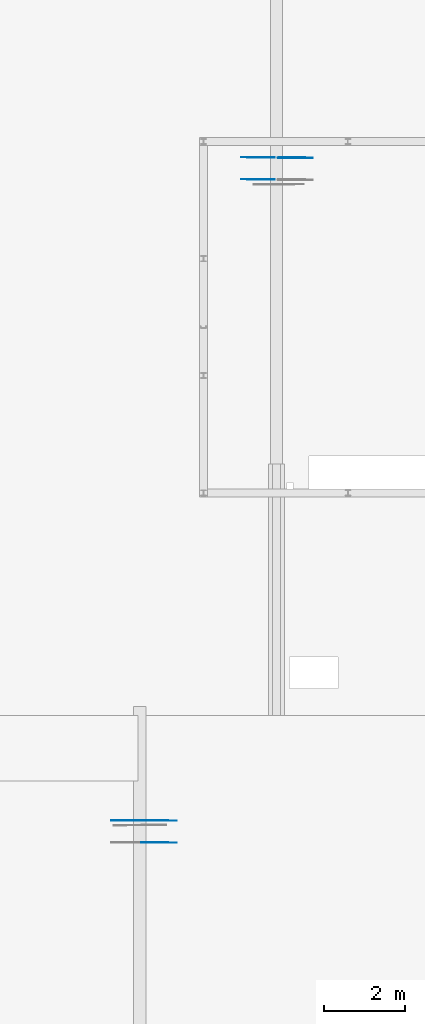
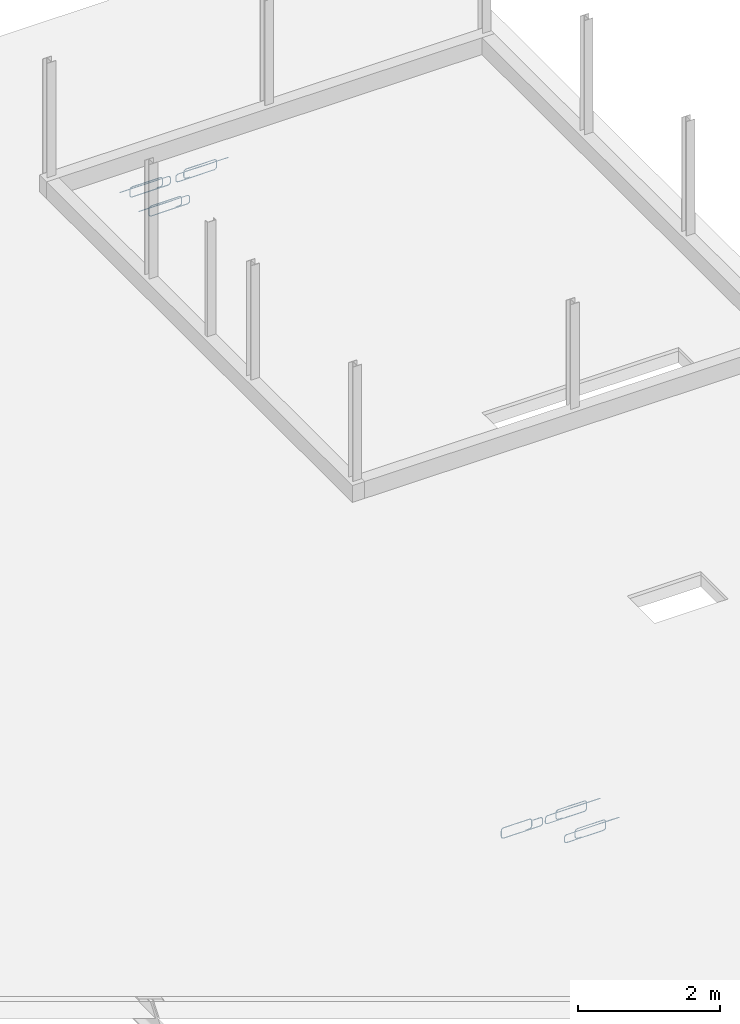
# One storey, part 8 of 9: 6 reinforcing bars.
"""IFC2X3 building model written with IfcOpenShell, lengths in millimetres."""

from ifc_helpers import new_model, entity, si_unit, converted_unit, derived_unit, direction, frame, origin, place, context, subcontext, project, spatial, element, save


model = new_model("IFC2X3")

# Units and contexts
model_context = context("Model", 3, precision=0.01, world=origin(), true_north=direction((6.12303176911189e-17, 1.0)))
body_context = subcontext(model_context, "Body", "Model", "MODEL_VIEW")
ifc_project = project(units=[si_unit("LENGTHUNIT", "METRE", prefix="MILLI"), si_unit("AREAUNIT", "SQUARE_METRE"), si_unit("VOLUMEUNIT", "CUBIC_METRE"), converted_unit("PLANEANGLEUNIT", "DEGREE", entity("IfcRatioMeasure", 0.0174532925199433), si_unit("PLANEANGLEUNIT", "RADIAN"), dimensions=[0, 0, 0, 0, 0, 0, 0]), si_unit("MASSUNIT", "GRAM", prefix="KILO"), derived_unit("MASSDENSITYUNIT", [(si_unit("MASSUNIT", "GRAM", prefix="KILO"), 1), (si_unit("LENGTHUNIT", "METRE"), -3)]), derived_unit("MOMENTOFINERTIAUNIT", [(si_unit("LENGTHUNIT", "METRE"), 4)]), si_unit("TIMEUNIT", "SECOND"), si_unit("FREQUENCYUNIT", "HERTZ"), si_unit("THERMODYNAMICTEMPERATUREUNIT", "DEGREE_CELSIUS"), derived_unit("THERMALTRANSMITTANCEUNIT", [(si_unit("MASSUNIT", "GRAM", prefix="KILO"), 1), (si_unit("THERMODYNAMICTEMPERATUREUNIT", "KELVIN"), -1), (si_unit("TIMEUNIT", "SECOND"), -3)]), derived_unit("VOLUMETRICFLOWRATEUNIT", [(si_unit("LENGTHUNIT", "METRE"), 3), (si_unit("TIMEUNIT", "SECOND"), -1)]), si_unit("ELECTRICCURRENTUNIT", "AMPERE"), si_unit("ELECTRICVOLTAGEUNIT", "VOLT"), si_unit("POWERUNIT", "WATT"), si_unit("FORCEUNIT", "NEWTON", prefix="KILO"), si_unit("ILLUMINANCEUNIT", "LUX"), si_unit("LUMINOUSFLUXUNIT", "LUMEN"), si_unit("LUMINOUSINTENSITYUNIT", "CANDELA"), derived_unit("USERDEFINED", [(si_unit("MASSUNIT", "GRAM", prefix="KILO"), -1), (si_unit("LENGTHUNIT", "METRE"), -2), (si_unit("TIMEUNIT", "SECOND"), 3), (si_unit("LUMINOUSFLUXUNIT", "LUMEN"), 1)]), derived_unit("LINEARVELOCITYUNIT", [(si_unit("LENGTHUNIT", "METRE"), 1), (si_unit("TIMEUNIT", "SECOND"), -1)]), si_unit("PRESSUREUNIT", "PASCAL"), derived_unit("USERDEFINED", [(si_unit("LENGTHUNIT", "METRE"), -2), (si_unit("MASSUNIT", "GRAM", prefix="KILO"), 1), (si_unit("TIMEUNIT", "SECOND"), -2)]), derived_unit("LINEARFORCEUNIT", [(si_unit("MASSUNIT", "GRAM", prefix="KILO"), 1), (si_unit("LENGTHUNIT", "METRE"), 1), (si_unit("TIMEUNIT", "SECOND"), -2), (si_unit("LENGTHUNIT", "METRE"), -1)]), derived_unit("PLANARFORCEUNIT", [(si_unit("MASSUNIT", "GRAM", prefix="KILO"), 1), (si_unit("LENGTHUNIT", "METRE"), 1), (si_unit("TIMEUNIT", "SECOND"), -2), (si_unit("LENGTHUNIT", "METRE"), -2)])], contexts=[model_context])

# Site, building, storey
site_placement = place(None, origin())
site = spatial("IfcSite", under=ifc_project, at=site_placement, Name="Default", CompositionType="ELEMENT")
building_placement = place(site_placement, origin())
building = spatial("IfcBuilding", under=site, at=building_placement, CompositionType="ELEMENT")
storey_placement = place(building_placement, frame((0.0, 0.0, 7000.0)))
storey = spatial("IfcBuildingStorey", under=building, at=storey_placement, Name="02 tweede verdieping", CompositionType="ELEMENT", Elevation=7000.00000000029)

# Reinforcing bars
reinforcing_bar_1_placement = place(storey_placement, origin())
ifc_direction_1 = entity("IfcDirection", [0.0, 1.0, 0.0])
ifc_direction_2 = entity("IfcDirection", [-1.0, 0.0, 0.0])
element("IfcReinforcingBar", 1, at=reinforcing_bar_1_placement, inside=storey, Name="Rebar Bar:SR_ø8 : Shape Rebar Shape 5: 1", ObjectType="Rebar Bar:SR_ø8", BarLength=2502.40730267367, BarRole="NOTDEFINED", CrossSectionArea=5.02654824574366e-05, NominalDiameter=8.0, context=body_context, shape_type="AdvancedSweptSolid", body=[
    entity("IfcSweptDiskSolid", entity("IfcCompositeCurve", [entity("IfcCompositeCurveSegment", "CONTINUOUS", True, entity("IfcPolyline", [entity("IfcCartesianPoint", [29237.7670532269, 31408.4625273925, 898.171324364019]), entity("IfcCartesianPoint", [29185.7670532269, 31408.4625273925, 898.171324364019])])), entity("IfcCompositeCurveSegment", "CONTINUOUS", True, entity("IfcTrimmedCurve", entity("IfcCircle", entity("IfcAxis2Placement3D", entity("IfcCartesianPoint", [29185.7670532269, 31408.4625273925, 942.171324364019]), ifc_direction_1, ifc_direction_2), 44.0), [entity("IfcParameterValue", 270.0)], [entity("IfcParameterValue", 360.0)], True, "PARAMETER")), entity("IfcCompositeCurveSegment", "CONTINUOUS", True, entity("IfcPolyline", [entity("IfcCartesianPoint", [29141.7670532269, 31408.4625273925, 942.171324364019]), entity("IfcCartesianPoint", [29141.7670532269, 31408.4625273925, 1013.25780031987])])), entity("IfcCompositeCurveSegment", "CONTINUOUS", True, entity("IfcTrimmedCurve", entity("IfcCircle", entity("IfcAxis2Placement3D", entity("IfcCartesianPoint", [29185.7670532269, 31408.4625273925, 1013.25780031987]), ifc_direction_1, entity("IfcDirection", [0.0, 0.0, 1.0])), 44.0), [entity("IfcParameterValue", 270.0)], [entity("IfcParameterValue", 360.0)], True, "PARAMETER")), entity("IfcCompositeCurveSegment", "CONTINUOUS", True, entity("IfcPolyline", [entity("IfcCartesianPoint", [29185.7670532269, 31408.4625273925, 1057.25780031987]), entity("IfcCartesianPoint", [29631.1743982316, 31408.4625273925, 1057.25780031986])])), entity("IfcCompositeCurveSegment", "CONTINUOUS", True, entity("IfcTrimmedCurve", entity("IfcCircle", entity("IfcAxis2Placement3D", entity("IfcCartesianPoint", [29631.1743982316, 31408.4625273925, 1013.25780031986]), ifc_direction_1, entity("IfcDirection", [1.0, 0.0, 0.0])), 44.0), [entity("IfcParameterValue", 270.0)], [entity("IfcParameterValue", 360.0)], True, "PARAMETER")), entity("IfcCompositeCurveSegment", "CONTINUOUS", True, entity("IfcPolyline", [entity("IfcCartesianPoint", [29675.1743982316, 31408.4625273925, 1013.25780031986]), entity("IfcCartesianPoint", [29675.1743982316, 31408.4625273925, 928.040008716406])])), entity("IfcCompositeCurveSegment", "CONTINUOUS", True, entity("IfcTrimmedCurve", entity("IfcCircle", entity("IfcAxis2Placement3D", entity("IfcCartesianPoint", [29631.1743982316, 31408.4625273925, 928.040008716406]), ifc_direction_1, entity("IfcDirection", [0.0, 0.0, -1.0])), 44.0), [entity("IfcParameterValue", 270.0)], [entity("IfcParameterValue", 360.0)], True, "PARAMETER")), entity("IfcCompositeCurveSegment", "CONTINUOUS", True, entity("IfcPolyline", [entity("IfcCartesianPoint", [29631.1743982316, 31408.4625273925, 884.040008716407]), entity("IfcCartesianPoint", [29054.7101783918, 31408.4625273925, 884.040008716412])])), entity("IfcCompositeCurveSegment", "CONTINUOUS", True, entity("IfcTrimmedCurve", entity("IfcCircle", entity("IfcAxis2Placement3D", entity("IfcCartesianPoint", [29054.7101783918, 31405.9382913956, 927.967542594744]), entity("IfcDirection", [0.0, 0.998353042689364, 0.0573689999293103]), ifc_direction_2), 44.0), [entity("IfcParameterValue", 270.0)], [entity("IfcParameterValue", 360.0)], True, "PARAMETER")), entity("IfcCompositeCurveSegment", "CONTINUOUS", True, entity("IfcPolyline", [entity("IfcCartesianPoint", [29010.7101783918, 31405.9382913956, 927.967542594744]), entity("IfcCartesianPoint", [29010.7101783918, 31402.9867633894, 979.330943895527])])), entity("IfcCompositeCurveSegment", "CONTINUOUS", True, entity("IfcTrimmedCurve", entity("IfcCircle", entity("IfcAxis2Placement3D", entity("IfcCartesianPoint", [29054.7101783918, 31402.9867633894, 979.330943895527]), entity("IfcDirection", [0.0, 0.998353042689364, 0.0573689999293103]), entity("IfcDirection", [0.0, -0.0573689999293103, 0.998353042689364])), 44.0), [entity("IfcParameterValue", 270.0)], [entity("IfcParameterValue", 360.0)], True, "PARAMETER")), entity("IfcCompositeCurveSegment", "CONTINUOUS", True, entity("IfcPolyline", [entity("IfcCartesianPoint", [29054.7101783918, 31400.4625273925, 1023.25847777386]), entity("IfcCartesianPoint", [29861.0329493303, 31400.4625273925, 1023.25847777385])]))], False), 4.0, None, 0.0, 547.0),
])
reinforcing_bar_2_placement = place(storey_placement, origin())
ifc_direction_3 = entity("IfcDirection", [0.0, -1.0, 0.0])
ifc_direction_4 = entity("IfcDirection", [1.0, 0.0, 0.0])
element("IfcReinforcingBar", 2, at=reinforcing_bar_2_placement, inside=storey, Name="Rebar Bar:SR_ø8 : Shape Rebar Shape 5: 1", ObjectType="Rebar Bar:SR_ø8", BarLength=2472.4231414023, BarRole="NOTDEFINED", CrossSectionArea=5.02654824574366e-05, NominalDiameter=8.0, context=body_context, shape_type="AdvancedSweptSolid", body=[
    entity("IfcSweptDiskSolid", entity("IfcCompositeCurve", [entity("IfcCompositeCurveSegment", "CONTINUOUS", True, entity("IfcPolyline", [entity("IfcCartesianPoint", [28701.1028997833, 31408.4625273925, 898.171324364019]), entity("IfcCartesianPoint", [28753.1028997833, 31408.4625273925, 898.171324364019])])), entity("IfcCompositeCurveSegment", "CONTINUOUS", True, entity("IfcTrimmedCurve", entity("IfcCircle", entity("IfcAxis2Placement3D", entity("IfcCartesianPoint", [28753.1028997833, 31408.4625273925, 942.171324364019]), ifc_direction_3, ifc_direction_4), 44.0), [entity("IfcParameterValue", 270.0)], [entity("IfcParameterValue", 360.0)], True, "PARAMETER")), entity("IfcCompositeCurveSegment", "CONTINUOUS", True, entity("IfcPolyline", [entity("IfcCartesianPoint", [28797.1028997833, 31408.4625273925, 942.171324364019]), entity("IfcCartesianPoint", [28797.1028997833, 31408.4625273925, 1013.25780031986])])), entity("IfcCompositeCurveSegment", "CONTINUOUS", True, entity("IfcTrimmedCurve", entity("IfcCircle", entity("IfcAxis2Placement3D", entity("IfcCartesianPoint", [28753.1028997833, 31408.4625273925, 1013.25780031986]), ifc_direction_3, entity("IfcDirection", [0.0, 0.0, 1.0])), 44.0), [entity("IfcParameterValue", 270.0)], [entity("IfcParameterValue", 360.0)], True, "PARAMETER")), entity("IfcCompositeCurveSegment", "CONTINUOUS", True, entity("IfcPolyline", [entity("IfcCartesianPoint", [28753.1028997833, 31408.4625273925, 1057.25780031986]), entity("IfcCartesianPoint", [28307.6955547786, 31408.4625273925, 1057.25780031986])])), entity("IfcCompositeCurveSegment", "CONTINUOUS", True, entity("IfcTrimmedCurve", entity("IfcCircle", entity("IfcAxis2Placement3D", entity("IfcCartesianPoint", [28307.6955547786, 31408.4625273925, 1013.25780031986]), ifc_direction_3, entity("IfcDirection", [-1.0, 0.0, 0.0])), 44.0), [entity("IfcParameterValue", 270.0)], [entity("IfcParameterValue", 360.0)], True, "PARAMETER")), entity("IfcCompositeCurveSegment", "CONTINUOUS", True, entity("IfcPolyline", [entity("IfcCartesianPoint", [28263.6955547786, 31408.4625273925, 1013.25780031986]), entity("IfcCartesianPoint", [28263.6955547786, 31408.4625273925, 928.040008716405])])), entity("IfcCompositeCurveSegment", "CONTINUOUS", True, entity("IfcTrimmedCurve", entity("IfcCircle", entity("IfcAxis2Placement3D", entity("IfcCartesianPoint", [28307.6955547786, 31408.4625273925, 928.040008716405]), ifc_direction_3, entity("IfcDirection", [0.0, 0.0, -1.0])), 44.0), [entity("IfcParameterValue", 270.0)], [entity("IfcParameterValue", 360.0)], True, "PARAMETER")), entity("IfcCompositeCurveSegment", "CONTINUOUS", True, entity("IfcPolyline", [entity("IfcCartesianPoint", [28307.6955547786, 31408.4625273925, 884.040008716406]), entity("IfcCartesianPoint", [28884.1597746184, 31408.4625273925, 884.040008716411])])), entity("IfcCompositeCurveSegment", "CONTINUOUS", True, entity("IfcTrimmedCurve", entity("IfcCircle", entity("IfcAxis2Placement3D", entity("IfcCartesianPoint", [28884.1597746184, 31410.9867633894, 927.967542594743]), entity("IfcDirection", [0.0, -0.998353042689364, 0.0573689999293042]), ifc_direction_4), 44.0), [entity("IfcParameterValue", 270.0)], [entity("IfcParameterValue", 360.0)], True, "PARAMETER")), entity("IfcCompositeCurveSegment", "CONTINUOUS", True, entity("IfcPolyline", [entity("IfcCartesianPoint", [28928.1597746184, 31410.9867633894, 927.967542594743]), entity("IfcCartesianPoint", [28928.1597746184, 31413.9382913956, 979.330943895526])])), entity("IfcCompositeCurveSegment", "CONTINUOUS", True, entity("IfcTrimmedCurve", entity("IfcCircle", entity("IfcAxis2Placement3D", entity("IfcCartesianPoint", [28884.1597746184, 31413.9382913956, 979.330943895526]), entity("IfcDirection", [0.0, -0.998353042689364, 0.0573689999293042]), entity("IfcDirection", [0.0, 0.0573689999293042, 0.998353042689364])), 44.0), [entity("IfcParameterValue", 270.0)], [entity("IfcParameterValue", 360.0)], True, "PARAMETER")), entity("IfcCompositeCurveSegment", "CONTINUOUS", True, entity("IfcPolyline", [entity("IfcCartesianPoint", [28884.1597746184, 31416.4625273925, 1023.25847777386]), entity("IfcCartesianPoint", [28107.8211649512, 31416.4625273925, 1023.25847777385])]))], False), 4.0, None, 0.0, 547.0),
])
reinforcing_bar_3_placement = place(storey_placement, origin())
ifc_direction_5 = entity("IfcDirection", [0.0, -1.0, 0.0])
ifc_direction_6 = entity("IfcDirection", [1.0, 0.0, 0.0])
element("IfcReinforcingBar", 3, at=reinforcing_bar_3_placement, inside=storey, Name="Rebar Bar:SR_ø8 : Shape Rebar Shape 5: 2", ObjectType="Rebar Bar:SR_ø8", BarLength=2472.4231414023, BarRole="NOTDEFINED", CrossSectionArea=5.02654824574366e-05, NominalDiameter=8.0, context=body_context, shape_type="AdvancedSweptSolid", body=[
    entity("IfcSweptDiskSolid", entity("IfcCompositeCurve", [entity("IfcCompositeCurveSegment", "CONTINUOUS", True, entity("IfcPolyline", [entity("IfcCartesianPoint", [28701.1028997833, 30869.7239395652, 898.171324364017]), entity("IfcCartesianPoint", [28753.1028997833, 30869.7239395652, 898.171324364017])])), entity("IfcCompositeCurveSegment", "CONTINUOUS", True, entity("IfcTrimmedCurve", entity("IfcCircle", entity("IfcAxis2Placement3D", entity("IfcCartesianPoint", [28753.1028997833, 30869.7239395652, 942.171324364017]), ifc_direction_5, ifc_direction_6), 44.0), [entity("IfcParameterValue", 270.0)], [entity("IfcParameterValue", 360.0)], True, "PARAMETER")), entity("IfcCompositeCurveSegment", "CONTINUOUS", True, entity("IfcPolyline", [entity("IfcCartesianPoint", [28797.1028997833, 30869.7239395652, 942.171324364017]), entity("IfcCartesianPoint", [28797.1028997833, 30869.7239395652, 1013.25780031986])])), entity("IfcCompositeCurveSegment", "CONTINUOUS", True, entity("IfcTrimmedCurve", entity("IfcCircle", entity("IfcAxis2Placement3D", entity("IfcCartesianPoint", [28753.1028997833, 30869.7239395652, 1013.25780031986]), ifc_direction_5, entity("IfcDirection", [0.0, 0.0, 1.0])), 44.0), [entity("IfcParameterValue", 270.0)], [entity("IfcParameterValue", 360.0)], True, "PARAMETER")), entity("IfcCompositeCurveSegment", "CONTINUOUS", True, entity("IfcPolyline", [entity("IfcCartesianPoint", [28753.1028997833, 30869.7239395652, 1057.25780031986]), entity("IfcCartesianPoint", [28307.6955547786, 30869.7239395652, 1057.25780031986])])), entity("IfcCompositeCurveSegment", "CONTINUOUS", True, entity("IfcTrimmedCurve", entity("IfcCircle", entity("IfcAxis2Placement3D", entity("IfcCartesianPoint", [28307.6955547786, 30869.7239395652, 1013.25780031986]), ifc_direction_5, entity("IfcDirection", [-1.0, 0.0, 0.0])), 44.0), [entity("IfcParameterValue", 270.0)], [entity("IfcParameterValue", 360.0)], True, "PARAMETER")), entity("IfcCompositeCurveSegment", "CONTINUOUS", True, entity("IfcPolyline", [entity("IfcCartesianPoint", [28263.6955547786, 30869.7239395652, 1013.25780031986]), entity("IfcCartesianPoint", [28263.6955547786, 30869.7239395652, 928.040008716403])])), entity("IfcCompositeCurveSegment", "CONTINUOUS", True, entity("IfcTrimmedCurve", entity("IfcCircle", entity("IfcAxis2Placement3D", entity("IfcCartesianPoint", [28307.6955547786, 30869.7239395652, 928.040008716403]), ifc_direction_5, entity("IfcDirection", [0.0, 0.0, -1.0])), 44.0), [entity("IfcParameterValue", 270.0)], [entity("IfcParameterValue", 360.0)], True, "PARAMETER")), entity("IfcCompositeCurveSegment", "CONTINUOUS", True, entity("IfcPolyline", [entity("IfcCartesianPoint", [28307.6955547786, 30869.7239395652, 884.040008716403]), entity("IfcCartesianPoint", [28884.1597746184, 30869.7239395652, 884.040008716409])])), entity("IfcCompositeCurveSegment", "CONTINUOUS", True, entity("IfcTrimmedCurve", entity("IfcCircle", entity("IfcAxis2Placement3D", entity("IfcCartesianPoint", [28884.1597746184, 30872.2481755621, 927.967542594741]), entity("IfcDirection", [0.0, -0.998353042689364, 0.0573689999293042]), ifc_direction_6), 44.0), [entity("IfcParameterValue", 270.0)], [entity("IfcParameterValue", 360.0)], True, "PARAMETER")), entity("IfcCompositeCurveSegment", "CONTINUOUS", True, entity("IfcPolyline", [entity("IfcCartesianPoint", [28928.1597746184, 30872.2481755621, 927.967542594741]), entity("IfcCartesianPoint", [28928.1597746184, 30875.1997035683, 979.330943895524])])), entity("IfcCompositeCurveSegment", "CONTINUOUS", True, entity("IfcTrimmedCurve", entity("IfcCircle", entity("IfcAxis2Placement3D", entity("IfcCartesianPoint", [28884.1597746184, 30875.1997035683, 979.330943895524]), entity("IfcDirection", [0.0, -0.998353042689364, 0.0573689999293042]), entity("IfcDirection", [0.0, 0.0573689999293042, 0.998353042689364])), 44.0), [entity("IfcParameterValue", 270.0)], [entity("IfcParameterValue", 360.0)], True, "PARAMETER")), entity("IfcCompositeCurveSegment", "CONTINUOUS", True, entity("IfcPolyline", [entity("IfcCartesianPoint", [28884.1597746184, 30877.7239395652, 1023.25847777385]), entity("IfcCartesianPoint", [28107.8211649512, 30877.7239395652, 1023.25847777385])]))], False), 4.0, None, 0.0, 547.0),
])
reinforcing_bar_4_placement = place(storey_placement, origin())
ifc_direction_7 = entity("IfcDirection", [0.0, 1.0, 0.0])
ifc_direction_8 = entity("IfcDirection", [-1.0, 0.0, 0.0])
element("IfcReinforcingBar", 4, at=reinforcing_bar_4_placement, inside=storey, Name="Rebar Bar:SR_ø8 : Shape Rebar Shape 5: 1", ObjectType="Rebar Bar:SR_ø8", BarLength=2529.92999239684, BarRole="NOTDEFINED", CrossSectionArea=5.02654824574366e-05, NominalDiameter=8.0, context=body_context, shape_type="AdvancedSweptSolid", body=[
    entity("IfcSweptDiskSolid", entity("IfcCompositeCurve", [entity("IfcCompositeCurveSegment", "CONTINUOUS", True, entity("IfcPolyline", [entity("IfcCartesianPoint", [25909.2710726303, 15141.6014686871, 889.777519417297]), entity("IfcCartesianPoint", [25857.2710726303, 15141.6014686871, 889.777519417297])])), entity("IfcCompositeCurveSegment", "CONTINUOUS", True, entity("IfcTrimmedCurve", entity("IfcCircle", entity("IfcAxis2Placement3D", entity("IfcCartesianPoint", [25857.2710726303, 15141.6014686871, 933.777519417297]), ifc_direction_7, ifc_direction_8), 44.0), [entity("IfcParameterValue", 270.0)], [entity("IfcParameterValue", 360.0)], True, "PARAMETER")), entity("IfcCompositeCurveSegment", "CONTINUOUS", True, entity("IfcPolyline", [entity("IfcCartesianPoint", [25813.2710726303, 15141.6014686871, 933.777519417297]), entity("IfcCartesianPoint", [25813.2710726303, 15141.6014686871, 1013.12322859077])])), entity("IfcCompositeCurveSegment", "CONTINUOUS", True, entity("IfcTrimmedCurve", entity("IfcCircle", entity("IfcAxis2Placement3D", entity("IfcCartesianPoint", [25857.2710726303, 15141.6014686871, 1013.12322859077]), ifc_direction_7, entity("IfcDirection", [0.0, 0.0, 1.0])), 44.0), [entity("IfcParameterValue", 270.0)], [entity("IfcParameterValue", 360.0)], True, "PARAMETER")), entity("IfcCompositeCurveSegment", "CONTINUOUS", True, entity("IfcPolyline", [entity("IfcCartesianPoint", [25857.2710726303, 15141.6014686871, 1057.12322859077]), entity("IfcCartesianPoint", [26266.1603583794, 15141.6014686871, 1057.12322859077])])), entity("IfcCompositeCurveSegment", "CONTINUOUS", True, entity("IfcTrimmedCurve", entity("IfcCircle", entity("IfcAxis2Placement3D", entity("IfcCartesianPoint", [26266.1603583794, 15141.6014686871, 1013.12322859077]), ifc_direction_7, entity("IfcDirection", [1.0, 0.0, 0.0])), 44.0), [entity("IfcParameterValue", 270.0)], [entity("IfcParameterValue", 360.0)], True, "PARAMETER")), entity("IfcCompositeCurveSegment", "CONTINUOUS", True, entity("IfcPolyline", [entity("IfcCartesianPoint", [26310.1603583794, 15141.6014686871, 1013.12322859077]), entity("IfcCartesianPoint", [26310.1603583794, 15141.6014686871, 922.755201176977])])), entity("IfcCompositeCurveSegment", "CONTINUOUS", True, entity("IfcTrimmedCurve", entity("IfcCircle", entity("IfcAxis2Placement3D", entity("IfcCartesianPoint", [26266.1603583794, 15141.6014686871, 922.755201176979]), ifc_direction_7, entity("IfcDirection", [0.0, 0.0, -1.0])), 44.0), [entity("IfcParameterValue", 270.0)], [entity("IfcParameterValue", 360.0)], True, "PARAMETER")), entity("IfcCompositeCurveSegment", "CONTINUOUS", True, entity("IfcPolyline", [entity("IfcCartesianPoint", [26266.1603583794, 15141.6014686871, 878.755201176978]), entity("IfcCartesianPoint", [25679.5512070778, 15141.6014686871, 878.755201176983])])), entity("IfcCompositeCurveSegment", "CONTINUOUS", True, entity("IfcTrimmedCurve", entity("IfcCircle", entity("IfcAxis2Placement3D", entity("IfcCartesianPoint", [25679.5512070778, 15139.1333295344, 922.685922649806]), entity("IfcDirection", [0.0, 0.998425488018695, 0.0560940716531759]), ifc_direction_8), 44.0), [entity("IfcParameterValue", 270.0)], [entity("IfcParameterValue", 360.0)], True, "PARAMETER")), entity("IfcCompositeCurveSegment", "CONTINUOUS", True, entity("IfcPolyline", [entity("IfcCartesianPoint", [25635.5512070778, 15139.1333295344, 922.685922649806]), entity("IfcCartesianPoint", [25635.5512070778, 15136.0696078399, 977.217493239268])])), entity("IfcCompositeCurveSegment", "CONTINUOUS", True, entity("IfcTrimmedCurve", entity("IfcCircle", entity("IfcAxis2Placement3D", entity("IfcCartesianPoint", [25679.5512070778, 15136.0696078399, 977.217493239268]), entity("IfcDirection", [0.0, 0.998425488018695, 0.0560940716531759]), entity("IfcDirection", [0.0, -0.0560940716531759, 0.998425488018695])), 44.0), [entity("IfcParameterValue", 270.0)], [entity("IfcParameterValue", 360.0)], True, "PARAMETER")), entity("IfcCompositeCurveSegment", "CONTINUOUS", True, entity("IfcPolyline", [entity("IfcCartesianPoint", [25679.5512070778, 15133.6014686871, 1021.14821471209]), entity("IfcCartesianPoint", [26523.1857820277, 15133.6014686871, 1021.14821471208])]))], False), 4.0, None, 0.0, 547.0),
])
reinforcing_bar_5_placement = place(storey_placement, origin())
ifc_direction_9 = entity("IfcDirection", [0.0, 1.0, 0.0])
ifc_direction_10 = entity("IfcDirection", [-1.0, 0.0, 0.0])
element("IfcReinforcingBar", 5, at=reinforcing_bar_5_placement, inside=storey, Name="Rebar Bar:SR_ø8 : Shape Rebar Shape 5: 2", ObjectType="Rebar Bar:SR_ø8", BarLength=2529.92999239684, BarRole="NOTDEFINED", CrossSectionArea=5.02654824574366e-05, NominalDiameter=8.0, context=body_context, shape_type="AdvancedSweptSolid", body=[
    entity("IfcSweptDiskSolid", entity("IfcCompositeCurve", [entity("IfcCompositeCurveSegment", "CONTINUOUS", True, entity("IfcPolyline", [entity("IfcCartesianPoint", [25909.2710726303, 14602.8628808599, 889.777519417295]), entity("IfcCartesianPoint", [25857.2710726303, 14602.8628808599, 889.777519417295])])), entity("IfcCompositeCurveSegment", "CONTINUOUS", True, entity("IfcTrimmedCurve", entity("IfcCircle", entity("IfcAxis2Placement3D", entity("IfcCartesianPoint", [25857.2710726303, 14602.8628808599, 933.777519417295]), ifc_direction_9, ifc_direction_10), 44.0), [entity("IfcParameterValue", 270.0)], [entity("IfcParameterValue", 360.0)], True, "PARAMETER")), entity("IfcCompositeCurveSegment", "CONTINUOUS", True, entity("IfcPolyline", [entity("IfcCartesianPoint", [25813.2710726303, 14602.8628808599, 933.777519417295]), entity("IfcCartesianPoint", [25813.2710726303, 14602.8628808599, 1013.12322859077])])), entity("IfcCompositeCurveSegment", "CONTINUOUS", True, entity("IfcTrimmedCurve", entity("IfcCircle", entity("IfcAxis2Placement3D", entity("IfcCartesianPoint", [25857.2710726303, 14602.8628808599, 1013.12322859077]), ifc_direction_9, entity("IfcDirection", [0.0, 0.0, 1.0])), 44.0), [entity("IfcParameterValue", 270.0)], [entity("IfcParameterValue", 360.0)], True, "PARAMETER")), entity("IfcCompositeCurveSegment", "CONTINUOUS", True, entity("IfcPolyline", [entity("IfcCartesianPoint", [25857.2710726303, 14602.8628808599, 1057.12322859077]), entity("IfcCartesianPoint", [26266.1603583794, 14602.8628808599, 1057.12322859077])])), entity("IfcCompositeCurveSegment", "CONTINUOUS", True, entity("IfcTrimmedCurve", entity("IfcCircle", entity("IfcAxis2Placement3D", entity("IfcCartesianPoint", [26266.1603583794, 14602.8628808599, 1013.12322859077]), ifc_direction_9, entity("IfcDirection", [1.0, 0.0, 0.0])), 44.0), [entity("IfcParameterValue", 270.0)], [entity("IfcParameterValue", 360.0)], True, "PARAMETER")), entity("IfcCompositeCurveSegment", "CONTINUOUS", True, entity("IfcPolyline", [entity("IfcCartesianPoint", [26310.1603583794, 14602.8628808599, 1013.12322859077]), entity("IfcCartesianPoint", [26310.1603583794, 14602.8628808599, 922.755201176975])])), entity("IfcCompositeCurveSegment", "CONTINUOUS", True, entity("IfcTrimmedCurve", entity("IfcCircle", entity("IfcAxis2Placement3D", entity("IfcCartesianPoint", [26266.1603583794, 14602.8628808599, 922.755201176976]), ifc_direction_9, entity("IfcDirection", [0.0, 0.0, -1.0])), 44.0), [entity("IfcParameterValue", 270.0)], [entity("IfcParameterValue", 360.0)], True, "PARAMETER")), entity("IfcCompositeCurveSegment", "CONTINUOUS", True, entity("IfcPolyline", [entity("IfcCartesianPoint", [26266.1603583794, 14602.8628808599, 878.755201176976]), entity("IfcCartesianPoint", [25679.5512070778, 14602.8628808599, 878.755201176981])])), entity("IfcCompositeCurveSegment", "CONTINUOUS", True, entity("IfcTrimmedCurve", entity("IfcCircle", entity("IfcAxis2Placement3D", entity("IfcCartesianPoint", [25679.5512070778, 14600.3947417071, 922.685922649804]), entity("IfcDirection", [0.0, 0.998425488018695, 0.0560940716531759]), ifc_direction_10), 44.0), [entity("IfcParameterValue", 270.0)], [entity("IfcParameterValue", 360.0)], True, "PARAMETER")), entity("IfcCompositeCurveSegment", "CONTINUOUS", True, entity("IfcPolyline", [entity("IfcCartesianPoint", [25635.5512070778, 14600.3947417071, 922.685922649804]), entity("IfcCartesianPoint", [25635.5512070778, 14597.3310200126, 977.217493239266])])), entity("IfcCompositeCurveSegment", "CONTINUOUS", True, entity("IfcTrimmedCurve", entity("IfcCircle", entity("IfcAxis2Placement3D", entity("IfcCartesianPoint", [25679.5512070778, 14597.3310200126, 977.217493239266]), entity("IfcDirection", [0.0, 0.998425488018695, 0.0560940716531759]), entity("IfcDirection", [0.0, -0.0560940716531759, 0.998425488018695])), 44.0), [entity("IfcParameterValue", 270.0)], [entity("IfcParameterValue", 360.0)], True, "PARAMETER")), entity("IfcCompositeCurveSegment", "CONTINUOUS", True, entity("IfcPolyline", [entity("IfcCartesianPoint", [25679.5512070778, 14594.8628808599, 1021.14821471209]), entity("IfcCartesianPoint", [26523.1857820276, 14594.8628808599, 1021.14821471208])]))], False), 4.0, None, 0.0, 547.0),
])
reinforcing_bar_6_placement = place(storey_placement, origin())
ifc_direction_11 = entity("IfcDirection", [0.0, -1.0, 0.0])
ifc_direction_12 = entity("IfcDirection", [1.0, 0.0, 0.0])
ifc_direction_13 = entity("IfcDirection", [0.0, 0.0, 1.0])
element("IfcReinforcingBar", 6, at=reinforcing_bar_6_placement, inside=storey, Name="Rebar Bar:SR_ø8 : Shape Rebar Shape 5: 1", ObjectType="Rebar Bar:SR_ø8", BarLength=1799.94583112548, BarRole="NOTDEFINED", CrossSectionArea=5.02654824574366e-05, NominalDiameter=8.0, context=body_context, shape_type="AdvancedSweptSolid", body=[
    entity("IfcSweptDiskSolid", entity("IfcCompositeCurve", [entity("IfcCompositeCurveSegment", "CONTINUOUS", True, entity("IfcPolyline", [entity("IfcCartesianPoint", [25321.5988803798, 15141.6014686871, 889.777519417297]), entity("IfcCartesianPoint", [25373.5988803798, 15141.6014686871, 889.777519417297])])), entity("IfcCompositeCurveSegment", "CONTINUOUS", True, entity("IfcTrimmedCurve", entity("IfcCircle", entity("IfcAxis2Placement3D", entity("IfcCartesianPoint", [25373.5988803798, 15141.6014686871, 933.777519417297]), ifc_direction_11, ifc_direction_12), 44.0), [entity("IfcParameterValue", 270.0)], [entity("IfcParameterValue", 360.0)], True, "PARAMETER")), entity("IfcCompositeCurveSegment", "CONTINUOUS", True, entity("IfcPolyline", [entity("IfcCartesianPoint", [25417.5988803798, 15141.6014686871, 933.777519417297]), entity("IfcCartesianPoint", [25417.5988803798, 15141.6014686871, 1013.12322859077])])), entity("IfcCompositeCurveSegment", "CONTINUOUS", True, entity("IfcTrimmedCurve", entity("IfcCircle", entity("IfcAxis2Placement3D", entity("IfcCartesianPoint", [25373.5988803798, 15141.6014686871, 1013.12322859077]), ifc_direction_11, ifc_direction_13), 44.0), [entity("IfcParameterValue", 270.0)], [entity("IfcParameterValue", 360.0)], True, "PARAMETER")), entity("IfcCompositeCurveSegment", "CONTINUOUS", True, entity("IfcPolyline", [entity("IfcCartesianPoint", [25373.5988803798, 15141.6014686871, 1057.12322859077]), entity("IfcCartesianPoint", [24964.7095946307, 15141.6014686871, 1057.12322859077])])), entity("IfcCompositeCurveSegment", "CONTINUOUS", True, entity("IfcTrimmedCurve", entity("IfcCircle", entity("IfcAxis2Placement3D", entity("IfcCartesianPoint", [24964.7095946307, 15141.6014686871, 1013.12322859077]), ifc_direction_11, entity("IfcDirection", [-1.0, 0.0, 0.0])), 44.0), [entity("IfcParameterValue", 270.0)], [entity("IfcParameterValue", 360.0)], True, "PARAMETER")), entity("IfcCompositeCurveSegment", "CONTINUOUS", True, entity("IfcPolyline", [entity("IfcCartesianPoint", [24920.7095946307, 15141.6014686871, 1013.12322859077]), entity("IfcCartesianPoint", [24920.7095946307, 15141.6014686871, 922.755201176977])])), entity("IfcCompositeCurveSegment", "CONTINUOUS", True, entity("IfcTrimmedCurve", entity("IfcCircle", entity("IfcAxis2Placement3D", entity("IfcCartesianPoint", [24964.7095946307, 15141.6014686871, 922.755201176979]), ifc_direction_11, entity("IfcDirection", [0.0, 0.0, -1.0])), 44.0), [entity("IfcParameterValue", 270.0)], [entity("IfcParameterValue", 360.0)], True, "PARAMETER")), entity("IfcCompositeCurveSegment", "CONTINUOUS", True, entity("IfcPolyline", [entity("IfcCartesianPoint", [24964.7095946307, 15141.6014686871, 878.755201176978]), entity("IfcCartesianPoint", [25551.3187459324, 15141.6014686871, 878.755201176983])])), entity("IfcCompositeCurveSegment", "CONTINUOUS", True, entity("IfcTrimmedCurve", entity("IfcCircle", entity("IfcAxis2Placement3D", entity("IfcCartesianPoint", [25551.3187459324, 15141.6014686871, 922.755201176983]), ifc_direction_11, ifc_direction_12), 44.0), [entity("IfcParameterValue", 270.0)], [entity("IfcParameterValue", 360.0)], True, "PARAMETER")), entity("IfcCompositeCurveSegment", "CONTINUOUS", True, entity("IfcPolyline", [entity("IfcCartesianPoint", [25595.3187459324, 15141.6014686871, 922.755201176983]), entity("IfcCartesianPoint", [25595.3187459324, 15141.6014686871, 977.148214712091])])), entity("IfcCompositeCurveSegment", "CONTINUOUS", True, entity("IfcTrimmedCurve", entity("IfcCircle", entity("IfcAxis2Placement3D", entity("IfcCartesianPoint", [25551.3187459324, 15141.6014686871, 977.148214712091]), ifc_direction_11, ifc_direction_13), 44.0), [entity("IfcParameterValue", 270.0)], [entity("IfcParameterValue", 360.0)], True, "PARAMETER")), entity("IfcCompositeCurveSegment", "CONTINUOUS", True, entity("IfcPolyline", [entity("IfcCartesianPoint", [25551.3187459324, 15141.6014686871, 1021.14821471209]), entity("IfcCartesianPoint", [25437.6683322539, 15141.6014686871, 1021.14821471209])]))], False), 4.0, None, 0.0, 547.0),
])

save(model, "model.ifc")
